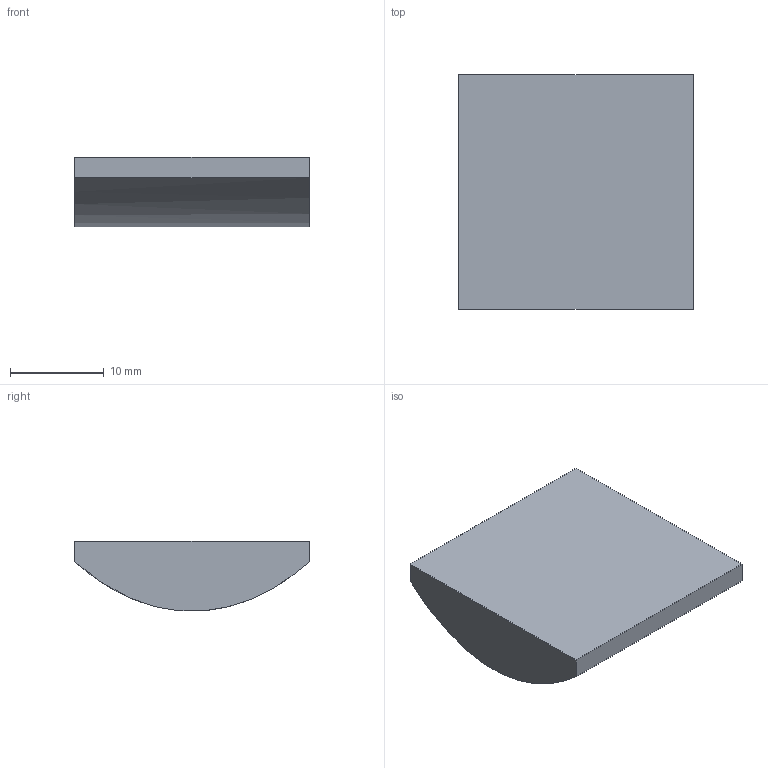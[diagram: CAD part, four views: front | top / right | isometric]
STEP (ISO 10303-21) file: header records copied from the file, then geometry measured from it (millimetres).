
FILE_DESCRIPTION ((), '1');
FILE_NAME ('\\fileserver\Daten\Applikationen\Optikdesign\SPA-Design\aktuelle SPA-Designs\Linsenkataloge - 2016-Juni\Zemax\CHL\CHL25-20.STP', '2016-05-24T14:27:37', ('Unknown'), ('Unknown'), 'HarmonyWare STEP v2.0.1', 'HarmonyWare Translators', '');
FILE_SCHEMA (('CONFIG_CONTROL_DESIGN'));
Length unit declared in the file: millimetre
Products named in the file (1): NONE
Bounding box: 25 x 25 x 7.45 mm (x, y, z)
Volume: 3605.2 mm3; surface area: 1717.9 mm2
Topology: 1 solids, 1 shells, 6 faces, 12 edges, 8 vertices
Faces by surface type: plane 3, bspline 3
Entity records: 388 total; most frequent: CARTESIAN_POINT 205, ORIENTED_EDGE 24, B_SPLINE_CURVE_WITH_KNOTS 12, EDGE_CURVE 12, VERTEX_POINT 8, PERSON 8, ORGANIZATION 8, PERSON_AND_ORGANIZATION 8
